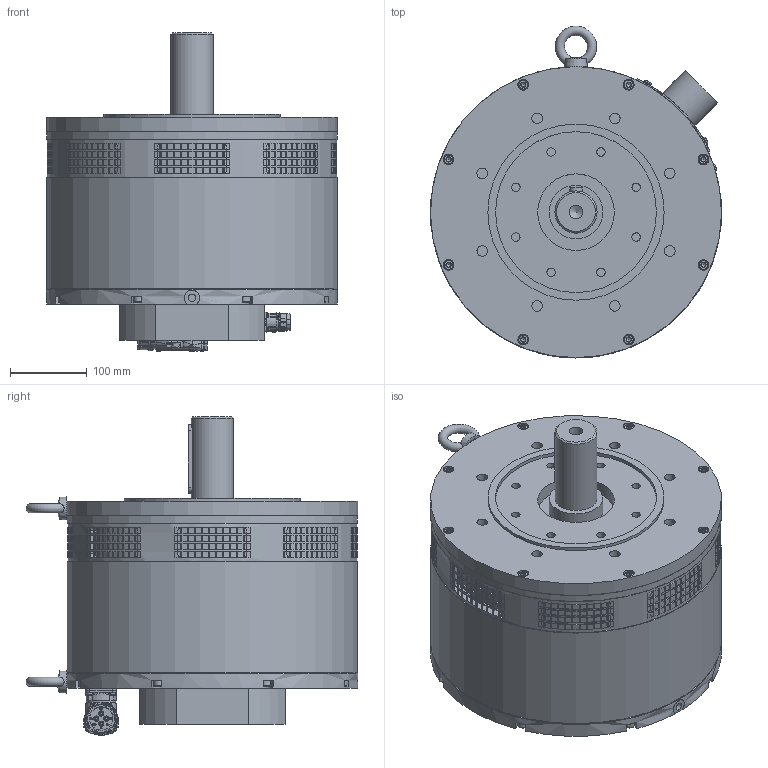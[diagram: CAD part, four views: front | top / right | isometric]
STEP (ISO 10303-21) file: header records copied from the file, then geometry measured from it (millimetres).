
FILE_DESCRIPTION(/* description */ (''),/* implementation_level */ '2;1');
FILE_NAME(/* name */ 'C:\Users\Public\Documents\Autodesk\Inventor LT 2014\Workspace\Motori Sito WEB\TG_9\STEP_DAP_9x\DAP_91_x099.stp',/* time_stamp */ '2021-04-07T12:57:38+02:00',/* author */ ('marcor'),/* organization */ (''),/* preprocessor_version */ 'ST-DEVELOPER v15.2',/* originating_system */ 'Autodesk Inventor LT ',/* authorisation */ '');
FILE_SCHEMA (('AUTOMOTIVE_DESIGN { 1 0 10303 214 3 1 1 }'));
Products named in the file (1): DAP_91_x099
Bounding box: 380 x 433 x 415.55 mm (x, y, z)
Volume: 29025484.8 mm3; surface area: 1299024.8 mm2
Topology: 37 solids, 52 shells, 3438 faces, 9386 edges, 6158 vertices
Faces by surface type: plane 2135, cylinder 744, cone 335, torus 117, bspline 86, sphere 21
Full cylindrical faces by diameter (mm): 1.431 x12, 2 x2, 2.224 x4, 2.5 x4, 2.7 x4, 2.88 x4, 3.242 x4, 3.6 x5, 4 x5, 4.8 x4, 4.917 x4, 5.4 x1, 6 x4, 6.5 x4, 6.647 x16, 7 x4, 8 x19, 8.5 x1, 9 x16, 9.853 x2, 10 x12, 10.106 x3, 11 x12, 12 x2, 13 x16, 13.835 x8, 14 x8, 14.9 x1, 17.294 x1, 19.8 x1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
Entity records: 111935 total; most frequent: CARTESIAN_POINT 26255, ORIENTED_EDGE 17534, DIRECTION 17110, EDGE_CURVE 8767, AXIS2_PLACEMENT_3D 6159, VERTEX_POINT 5986, LINE 4792, VECTOR 4792
